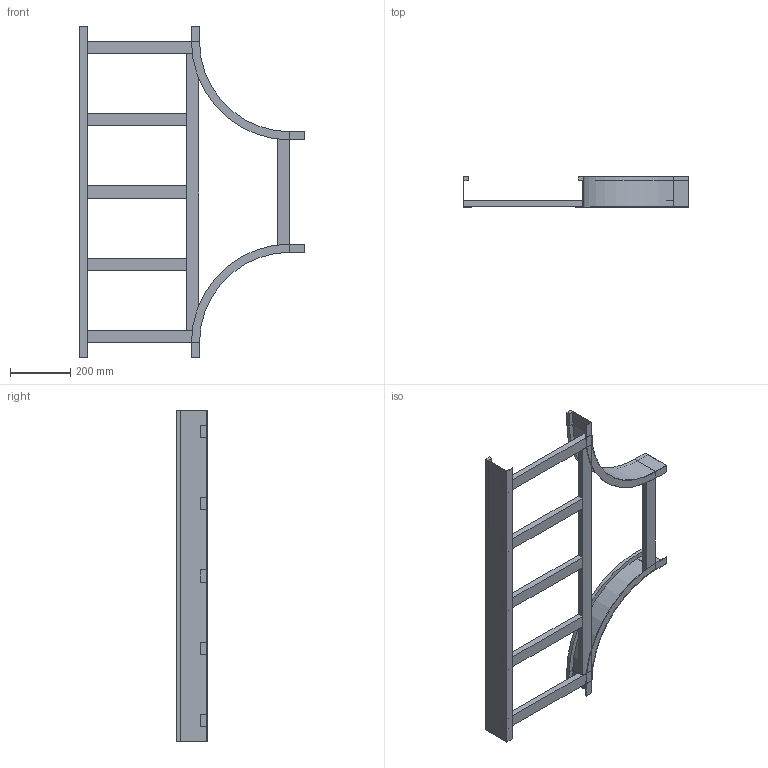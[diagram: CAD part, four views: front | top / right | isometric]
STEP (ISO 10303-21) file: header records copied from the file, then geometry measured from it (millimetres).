
FILE_DESCRIPTION (( 'STEP AP214' ), '1' );
FILE_NAME ('B2_15B3D400.step', '2025-02-21T15:50:11', ( '' ), ( '' ), 'SwSTEP 2.0', 'SolidWorks 2023', '' );
FILE_SCHEMA (( 'AUTOMOTIVE_DESIGN' ));
Length unit declared in the file: millimetre
Products named in the file (6): TRAVERSINO_INTERMEDIO_R300+400; B2_LONGH.INTERNO 90°_H100_R300; B2_TRAVERSINO_LONG._R300+400; B2_LONGH.RETT_H100_R300+400; B2_15B3D400; TRAVERSINO_400
Assembly tree (10 placements, depth 2):
  B2_15B3D400
    B2_LONGH.INTERNO 90°_H100_R300  x2
    B2_LONGH.RETT_H100_R300+400
    TRAVERSINO_400  x3
    B2_TRAVERSINO_LONG._R300+400
    TRAVERSINO_INTERMEDIO_R300+400  x3
Bounding box: 750 x 100 x 1100 mm (x, y, z)
Volume: 3570648 mm3; surface area: 1044018.3 mm2
Topology: 10 solids, 10 shells, 104 faces, 220 edges, 136 vertices
Faces by surface type: plane 96, cylinder 8
Entity records: 1647 total; most frequent: DIRECTION 258, CARTESIAN_POINT 255, ORIENTED_EDGE 232, EDGE_CURVE 116, LINE 108, VECTOR 108, AXIS2_PLACEMENT_3D 75, VERTEX_POINT 72
